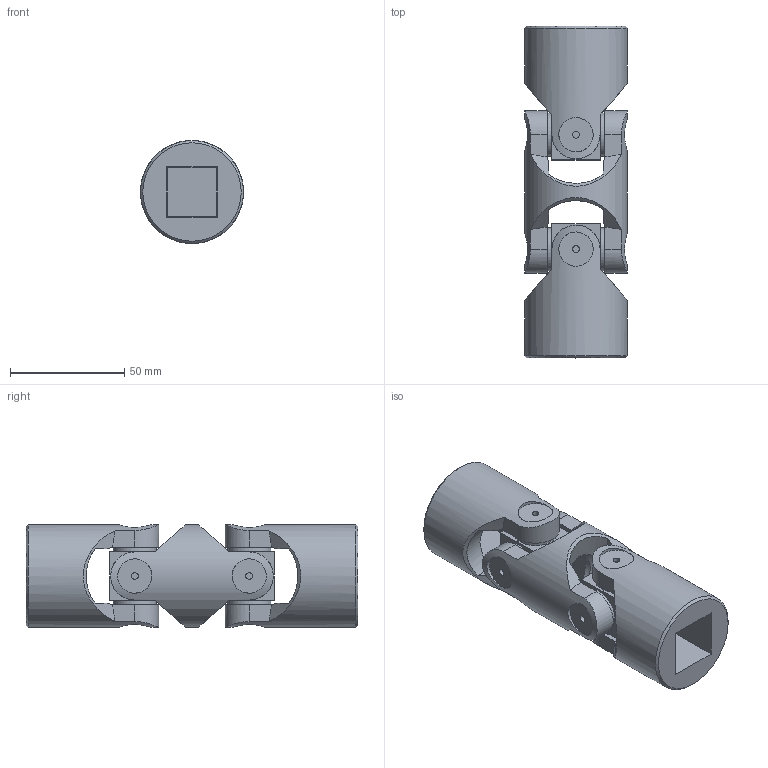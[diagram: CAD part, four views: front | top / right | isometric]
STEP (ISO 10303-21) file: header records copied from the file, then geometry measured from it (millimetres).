
FILE_DESCRIPTION(/* description */ (''),/* implementation_level */ '2;1');
FILE_NAME(/* name */ '\\SRV2016\Societa\Stefano\Disegni 3D\00Catalogo 3D\02Doppi GD-GBD\SG0D222Q.stp',/* time_stamp */ '2021-11-23T15:12:34+01:00',/* author */ ('acquisti'),/* organization */ (''),/* preprocessor_version */ 'ST-DEVELOPER v15.6',/* originating_system */ 'Autodesk Inventor 2015',/* authorisation */ '');
FILE_SCHEMA (('AUTOMOTIVE_DESIGN { 1 0 10303 214 3 1 1 }'));
Length unit declared in the file: millimetre
Products named in the file (4): 4G MOD; 4GA SFE; 4G MOQ; Ø45_4GD-00_SG0D2200
Assembly tree (5 placements, depth 2):
  Ø45_4GD-00_SG0D2200
    4G MOD
    4GA SFE  x2
    4G MOQ  x2
Bounding box: 45 x 145 x 45 mm (x, y, z)
Volume: 142348.6 mm3; surface area: 41434 mm2
Topology: 5 solids, 5 shells, 155 faces, 387 edges, 262 vertices
Faces by surface type: plane 78, cylinder 45, cone 28, torus 4
Full cylindrical faces by diameter (mm): 3 x8, 15 x8, 19 x8, 23 x2, 45 x3
Entity records: 3606 total; most frequent: CARTESIAN_POINT 1263, ORIENTED_EDGE 464, DIRECTION 438, EDGE_CURVE 232, AXIS2_PLACEMENT_3D 187, VERTEX_POINT 174, EDGE_LOOP 146, FACE_OUTER_BOUND 103
